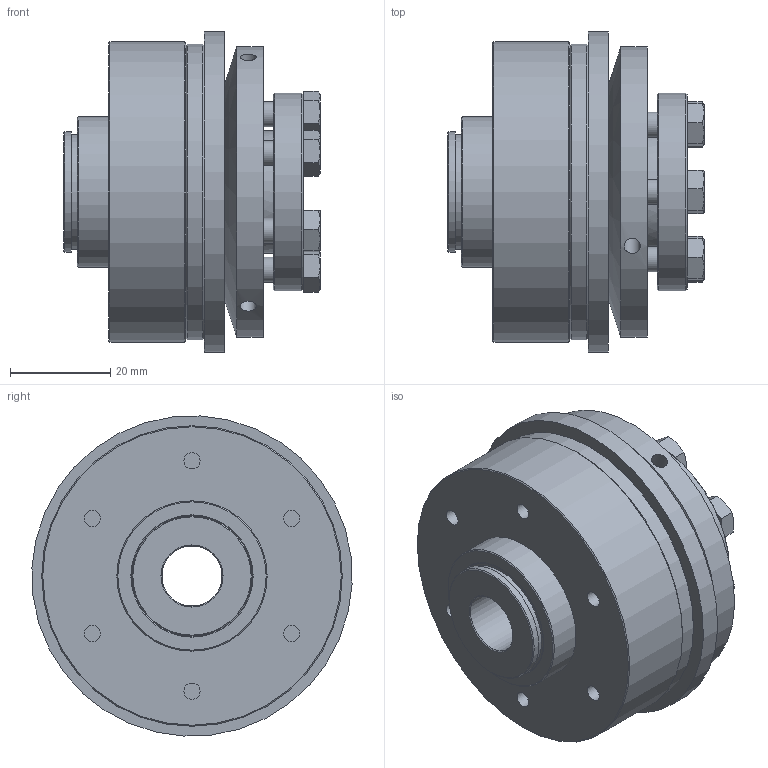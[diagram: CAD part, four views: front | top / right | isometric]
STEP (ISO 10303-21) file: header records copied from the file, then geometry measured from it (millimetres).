
FILE_DESCRIPTION( ( 'Unknown' ), '1' );
FILE_NAME( 'C:/Users/TWalzel/Documents/CAD-Daten/KBK-CI/30/KBK C-I-30.stp', 'Unknown', ( 'Unknown' ), ( 'Unknown' ), 'PSStep 16.0.42', 'Unknown', ' ' );
FILE_SCHEMA( ( 'AUTOMOTIVE_DESIGN { 1 0 10303 214 1 1 1 1 }' ) );
Length unit declared in the file: millimetre
Products named in the file (11): Konusbuchse KBK L-I-30; Druckring 30; din_en_24017_m5x16; Stellring 30; Assem1; Grundkörper C-I-30_1; Flansch-Gleitlager CK-30
Assembly tree (15 placements, depth 3):
  Assem1
    Grundkörper C-I-30_1
    Flansch-Gleitlager CK-30
    Stellring 30
      Stellring 30
    Druckring 30
      Druckring 30
    Konusbuchse KBK L-I-30
      Konusbuchse KBK L-I-30
    din_en_24017_m5x16  x6
      din_en_24017_m5x16
Bounding box: 51.15 x 63.92 x 63.92 mm (x, y, z)
Volume: 91039.9 mm3; surface area: 40725.7 mm2
Topology: 11 solids, 11 shells, 248 faces, 520 edges, 328 vertices
Faces by surface type: plane 110, cone 72, cylinder 59, torus 7
Full cylindrical faces by diameter (mm): 3.242 x15, 4.134 x9, 5 x6, 5.5 x6, 6.88 x6, 12 x2, 23 x1, 24 x3, 24.4 x1, 30 x1, 38 x2, 39.5 x1, 40 x1, 52 x1, 58 x1, 59 x1, 60 x1, 64 x1
Entity records: 4992 total; most frequent: CARTESIAN_POINT 922, DIRECTION 638, ORIENTED_EDGE 410, AXIS2_PLACEMENT_3D 301, EDGE_LOOP 262, EDGE_CURVE 205, FACE_OUTER_BOUND 189, VERTEX_POINT 169
